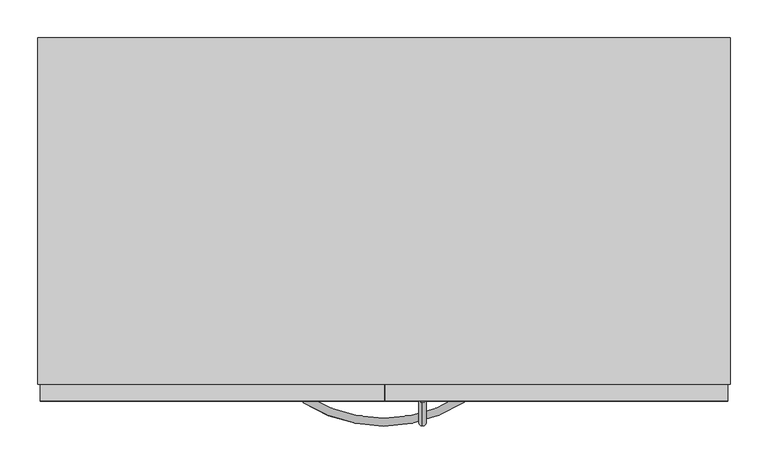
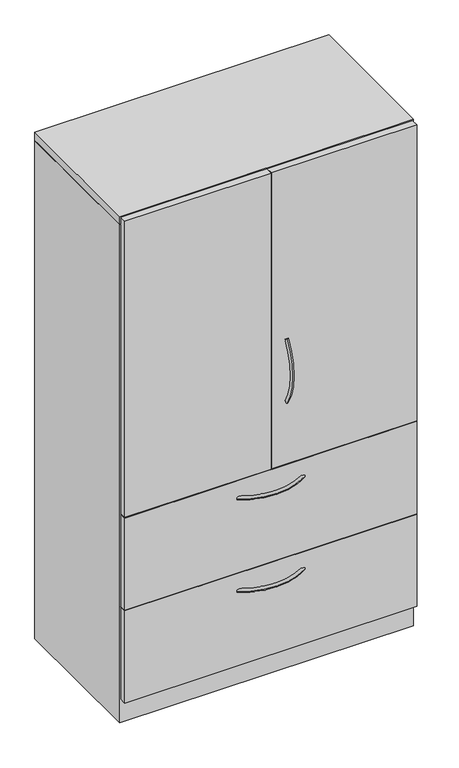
"""IFC4 building model written with IfcOpenShell, lengths in millimetres: furniture geometry, Steelcase - Universal Storage - Cabinet - Combination - Proud Steel : 65 1/2H - Hinged Doors/2 Drawers - 18 7/8D x 36W."""

from ifc_helpers import new_model, si_unit, point, frame, origin, place, context, project, spatial, polyline, circle_curve, ellipse_curve, trimmed, outline, extrude, faceted_brep, source, transform, mapped, element, save
from ifc_brep_helpers import plane_surface, revolved_surface, advanced_brep


def furniture_7a1b80d1(model_context):
    return source(origin(), model_context, "Body", "SolidModel", [
        extrude(outline(polyline([(911.2225413, -479.552), (3.1725353, -479.552), (3.1725353, -457.3261219), (911.2225413, -457.3261219), (911.2225413, -479.552)])), frame((0.0, 0.0, 77.724), z_axis=(0.0, 0.0, 1.0), x_axis=(1.0, 0.0, 0.0)), (0.0, 0.0, 1.0), 303.276),
        extrude(outline(polyline([(911.2225413, -479.552), (3.1725353, -479.552), (3.1725353, -457.3261219), (911.2225413, -457.3261219), (911.2225413, -479.552)])), frame((0.0, 0.0, 382.524), z_axis=(0.0, 0.0, 1.0), x_axis=(1.0, 0.0, 0.0)), (0.0, 0.0, 1.0), 303.276),
        extrude(outline(polyline([(457.2, -479.552), (3.1725353, -479.552), (3.1725353, -457.3261219), (457.2, -457.3261219), (457.2, -479.552)])), frame((0.0, 0.0, 687.7062596), z_axis=(0.0, 0.0, 1.0), x_axis=(1.0, 0.0, 0.0)), (0.0, 0.0, 1.0), 972.82),
        extrude(outline(polyline([(911.2225413, -479.552), (458.7239992, -479.552), (458.7239992, -457.3261219), (911.2225413, -457.3261219), (911.2225413, -479.552)])), frame((0.0, 0.0, 687.7062596), z_axis=(0.0, 0.0, 1.0), x_axis=(1.0, 0.0, 0.0)), (0.0, 0.0, 1.0), 972.82),
        advanced_brep(
        [(507.9682496, -481.5705994, 1099.843666), (507.9682496, -473.0108019, 1094.3705073), (507.9682496, -481.1337636, 887.5367456), (507.9682496, -472.5965612, 893.0450825)],
        [
            (0, 1, circle_curve(frame((507.9682496, -477.2907007, 1097.1070866), z_axis=(0.0, 0.5386967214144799, 0.842499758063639), x_axis=(0.0, 0.842499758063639, -0.5386967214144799)), 5.08)),
            (1, 0, circle_curve(frame((507.9682496, -477.2907007, 1097.1070866), z_axis=(0.0, 0.5386967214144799, 0.842499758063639), x_axis=(0.0, 0.842499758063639, -0.5386967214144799)), 5.08)),
            (2, 3, circle_curve(frame((507.9682496, -476.8651624, 890.2909141), z_axis=(0.0, 0.5421591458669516, -0.8402758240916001), x_axis=(0.0, 0.8402758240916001, 0.5421591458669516)), 5.08)),
            (3, 2, circle_curve(frame((507.9682496, -476.8651624, 890.2909141), z_axis=(0.0, 0.5421591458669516, -0.8402758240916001), x_axis=(0.0, 0.8402758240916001, 0.5421591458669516)), 5.08)),
            (3, 1, circle_curve(frame((507.9682496, -316.0827352, 994.0302589), z_axis=(-1.0, 0.0, 0.0), x_axis=(0.0, -0.8424997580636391, 0.5386967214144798)), 186.2648211)),
            (0, 2, circle_curve(frame((507.9682496, -316.0827352, 994.0302589), z_axis=(1.0, 0.0, 0.0), x_axis=(0.0, -0.8424997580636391, 0.5386967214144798)), 196.4248211)),
        ],
        [
            plane_surface(frame((508.7619996, -476.6365286, 1096.6888072), z_axis=(0.0, 0.5386967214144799, 0.8424997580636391), x_axis=(1.0, 0.0, 0.0))),
            plane_surface(frame((508.7619996, -476.2127171, 890.711882), z_axis=(0.0, 0.5421591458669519, -0.8402758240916), x_axis=(1.0, 0.0, 0.0))),
            revolved_surface(trimmed(ellipse_curve(frame((507.9682496, -477.2907007, 1097.1070866), z_axis=(0.0, 0.5386967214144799, 0.842499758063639), x_axis=(0.0, 0.842499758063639, -0.5386967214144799)), 5.08, 5.08), [point((507.9682496, -481.5705994, 1099.843666))], [point((507.9682496, -473.0108019, 1094.3705073))], True, "CARTESIAN"), (508.7619996, -316.0827352, 994.0302589), (1.0, 0.0, 0.0)),
            revolved_surface(trimmed(ellipse_curve(frame((507.9682496, -477.2907007, 1097.1070866), z_axis=(0.0, 0.5386967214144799, 0.842499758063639), x_axis=(0.0, 0.842499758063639, -0.5386967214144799)), 5.08, 5.08), [point((507.9682496, -473.0108019, 1094.3705073))], [point((507.9682496, -481.5705994, 1099.843666))], True, "CARTESIAN"), (508.7619996, -316.0827352, 994.0302589), (1.0, 0.0, 0.0)),
        ],
        [
            (0, [[1, 2]]),
            (1, [[3, 4]]),
            (2, [[5, -1, 6, -4]]),
            (3, [[-6, -2, -5, -3]]),
        ],
    ),
        advanced_brep(
        [(350.6245932, -481.5705994, 323.56425), (356.0977519, -473.0108019, 323.56425), (562.9315136, -481.1337636, 323.56425), (557.4231767, -472.5965612, 323.56425)],
        [
            (0, 1, circle_curve(frame((353.3611726, -477.2907007, 323.56425), z_axis=(-0.8424997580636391, 0.5386967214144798, 0.0), x_axis=(0.5386967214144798, 0.8424997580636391, 0.0)), 5.08)),
            (1, 0, circle_curve(frame((353.3611726, -477.2907007, 323.56425), z_axis=(-0.8424997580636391, 0.5386967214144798, 0.0), x_axis=(0.5386967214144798, 0.8424997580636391, 0.0)), 5.08)),
            (2, 3, circle_curve(frame((560.1773452, -476.8651624, 323.56425), z_axis=(0.8402758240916, 0.5421591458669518, 0.0), x_axis=(-0.5421591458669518, 0.8402758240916, 0.0)), 5.08)),
            (3, 2, circle_curve(frame((560.1773452, -476.8651624, 323.56425), z_axis=(0.8402758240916, 0.5421591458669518, 0.0), x_axis=(-0.5421591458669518, 0.8402758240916, 0.0)), 5.08)),
            (3, 1, circle_curve(frame((456.4380004, -316.0827352, 323.56425), z_axis=(0.0, 0.0, -1.0), x_axis=(-0.5386967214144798, -0.8424997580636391, 0.0)), 186.2648211)),
            (0, 2, circle_curve(frame((456.4380004, -316.0827352, 323.56425), z_axis=(0.0, 0.0, 1.0), x_axis=(-0.5386967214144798, -0.8424997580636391, 0.0)), 196.4248211)),
        ],
        [
            plane_surface(frame((353.7794521, -476.6365286, 324.358), z_axis=(-0.8424997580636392, 0.5386967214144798, 0.0), x_axis=(0.0, 0.0, 1.0))),
            plane_surface(frame((559.7563772, -476.2127171, 324.358), z_axis=(0.8402758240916, 0.5421591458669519, 0.0), x_axis=(0.0, 0.0, 1.0))),
            revolved_surface(trimmed(ellipse_curve(frame((353.3611726, -477.2907007, 323.56425), z_axis=(-0.8424997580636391, 0.5386967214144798, 0.0), x_axis=(0.5386967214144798, 0.8424997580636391, 0.0)), 5.08, 5.08), [point((350.6245932, -481.5705994, 323.56425))], [point((356.0977519, -473.0108019, 323.56425))], True, "CARTESIAN"), (456.4380004, -316.0827352, 324.358), (0.0, 0.0, 1.0)),
            revolved_surface(trimmed(ellipse_curve(frame((353.3611726, -477.2907007, 323.56425), z_axis=(-0.8424997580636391, 0.5386967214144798, 0.0), x_axis=(0.5386967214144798, 0.8424997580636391, 0.0)), 5.08, 5.08), [point((356.0977519, -473.0108019, 323.56425))], [point((350.6245932, -481.5705994, 323.56425))], True, "CARTESIAN"), (456.4380004, -316.0827352, 324.358), (0.0, 0.0, 1.0)),
        ],
        [
            (0, [[1, 2]]),
            (1, [[3, 4]]),
            (2, [[5, -1, 6, -4]]),
            (3, [[-6, -2, -5, -3]]),
        ],
    ),
        advanced_brep(
        [(350.6245932, -481.5705994, 627.85625), (356.0977519, -473.0108019, 627.85625), (562.9315136, -481.1337636, 627.85625), (557.4231767, -472.5965612, 627.85625)],
        [
            (0, 1, circle_curve(frame((353.3611726, -477.2907007, 627.85625), z_axis=(-0.8424997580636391, 0.5386967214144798, 0.0), x_axis=(0.5386967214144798, 0.8424997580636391, 0.0)), 5.08)),
            (1, 0, circle_curve(frame((353.3611726, -477.2907007, 627.85625), z_axis=(-0.8424997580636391, 0.5386967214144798, 0.0), x_axis=(0.5386967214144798, 0.8424997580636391, 0.0)), 5.08)),
            (2, 3, circle_curve(frame((560.1773452, -476.8651624, 627.85625), z_axis=(0.8402758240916, 0.5421591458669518, 0.0), x_axis=(-0.5421591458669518, 0.8402758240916, 0.0)), 5.08)),
            (3, 2, circle_curve(frame((560.1773452, -476.8651624, 627.85625), z_axis=(0.8402758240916, 0.5421591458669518, 0.0), x_axis=(-0.5421591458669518, 0.8402758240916, 0.0)), 5.08)),
            (3, 1, circle_curve(frame((456.4380004, -316.0827352, 627.85625), z_axis=(0.0, 0.0, -1.0), x_axis=(-0.5386967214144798, -0.8424997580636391, 0.0)), 186.2648211)),
            (0, 2, circle_curve(frame((456.4380004, -316.0827352, 627.85625), z_axis=(0.0, 0.0, 1.0), x_axis=(-0.5386967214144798, -0.8424997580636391, 0.0)), 196.4248211)),
        ],
        [
            plane_surface(frame((353.7794521, -476.6365286, 628.65), z_axis=(-0.8424997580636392, 0.5386967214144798, 0.0), x_axis=(0.0, 0.0, 1.0))),
            plane_surface(frame((559.7563772, -476.2127171, 628.65), z_axis=(0.8402758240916, 0.5421591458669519, 0.0), x_axis=(0.0, 0.0, 1.0))),
            revolved_surface(trimmed(ellipse_curve(frame((353.3611726, -477.2907007, 627.85625), z_axis=(-0.8424997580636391, 0.5386967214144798, 0.0), x_axis=(0.5386967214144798, 0.8424997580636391, 0.0)), 5.08, 5.08), [point((350.6245932, -481.5705994, 627.85625))], [point((356.0977519, -473.0108019, 627.85625))], True, "CARTESIAN"), (456.4380004, -316.0827352, 628.65), (0.0, 0.0, 1.0)),
            revolved_surface(trimmed(ellipse_curve(frame((353.3611726, -477.2907007, 627.85625), z_axis=(-0.8424997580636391, 0.5386967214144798, 0.0), x_axis=(0.5386967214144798, 0.8424997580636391, 0.0)), 5.08, 5.08), [point((356.0977519, -473.0108019, 627.85625))], [point((350.6245932, -481.5705994, 627.85625))], True, "CARTESIAN"), (456.4380004, -316.0827352, 628.65), (0.0, 0.0, 1.0)),
        ],
        [
            (0, [[1, 2]]),
            (1, [[3, 4]]),
            (2, [[5, -1, 6, -4]]),
            (3, [[-6, -2, -5, -3]]),
        ],
    ),
        faceted_brep([(25.4000008, -457.3261219, 76.2), (889.0000242, -457.3261219, 76.2), (889.0000242, -25.4000008, 76.2), (25.4000008, -25.4000008, 76.2), (914.4, 0.0, 0.0), (914.4, -457.3261219, 0.0), (0.0, -457.3261219, 0.0), (0.0, 0.0, 0.0), (0.0, 0.0, 1636.776), (914.4, 0.0, 1636.776), (0.0, -457.3261219, 1636.776), (914.4, -457.3261219, 1636.776), (889.0000242, -457.3261219, 1636.776), (25.4000008, -457.3261219, 1636.776), (889.0000242, -25.4000008, 1636.776), (25.4000008, -25.4000008, 1636.776)], [[[0, 1, 2, 3]], [[4, 5, 6, 7]], [[4, 7, 8, 9]], [[8, 7, 6, 10]], [[10, 6, 5, 11, 12, 1, 0, 13]], [[11, 5, 4, 9]], [[14, 12, 11, 9, 8, 10, 13, 15]], [[12, 14, 2, 1]], [[15, 13, 0, 3]], [[14, 15, 3, 2]]]),
        extrude(outline(polyline([(914.4, 0.0), (914.4, -457.3261219), (0.0, -457.3261219), (0.0, 0.0), (914.4, 0.0)])), frame((0.0, 0.0, 1638.2999516), z_axis=(0.0, 0.0, 1.0), x_axis=(1.0, 0.0, 0.0)), (0.0, 0.0, 1.0), 25.4000484),
    ])


if __name__ == "__main__":
    model = new_model("IFC4")
    model_context = context("Model", 3, world=origin())
    ifc_project = project(units=[si_unit("LENGTHUNIT", "METRE", prefix="MILLI")], contexts=[model_context])
    site = spatial("IfcSite", under=ifc_project)
    building = spatial("IfcBuilding", under=site)
    placement = place(None, origin())
    furniture_shape = furniture_7a1b80d1(model_context)
    element("IfcFurniture", 1, ObjectType="Steelcase - Universal Storage - Cabinet - Combination - Proud Steel : 65 1/2H - Hinged Doors/2 Drawers - 18 7/8D x 36W", at=placement, inside=building, context=model_context, shape_type="MappedRepresentation", body=[
        mapped(furniture_shape, transform((0.0, 0.0, 0.0), x_axis=(1.0, 0.0, 0.0), y_axis=(0.0, 1.0, 0.0), z_axis=(0.0, 0.0, 1.0))),
    ])
    save(model, "model.ifc")
